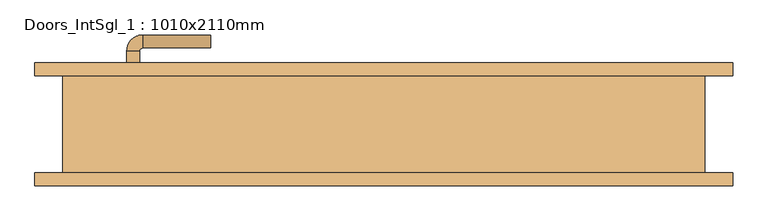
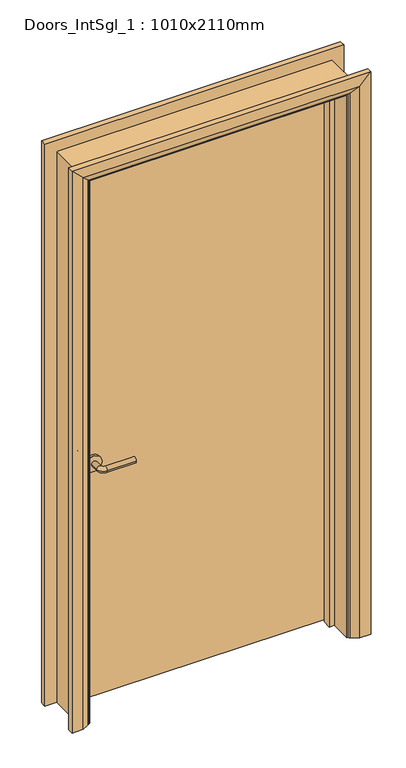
"""IFC4 building model written with IfcOpenShell, lengths in millimetres: door geometry, Doors_IntSgl_1 : 1010x2110mm."""

from ifc_helpers import new_model, si_unit, point, frame, frame_2d, origin, place, context, project, spatial, polyline, circle_curve, ellipse_curve, trimmed, segment, composite_curve, outline, extrude, faceted_brep, source, transform, mapped, element, save
from ifc_brep_helpers import plane_surface, cylinder_surface, revolved_surface, advanced_brep


def doors_intsgl_1_1010x2110mm_12a6edaf(model_context):
    return source(origin(), model_context, "Body", "SolidModel", [
        advanced_brep(
        [(-398.0, 29.0, 900.0), (-378.0, 29.0, 900.0), (-378.0, -1.0, 900.0), (-398.0, -1.0, 900.0), (-373.0, -6.0, 900.0), (-373.0, -26.0, 900.0), (-268.0, -26.0, 900.0), (-268.0, -6.0, 900.0)],
        [
            (0, 1, circle_curve(frame((-388.0, 29.0, 900.0), z_axis=(0.0, 1.0, 0.0), x_axis=(1.0, 0.0, 0.0)), 10.0)),
            (1, 0, circle_curve(frame((-388.0, 29.0, 900.0), z_axis=(0.0, 1.0, 0.0), x_axis=(1.0, 0.0, 0.0)), 10.0)),
            (1, 2),
            (2, 3, circle_curve(frame((-388.0, -1.0, 900.0), z_axis=(0.0, 1.0, 0.0), x_axis=(1.0, 0.0, 0.0)), 10.0)),
            (3, 0),
            (3, 2, circle_curve(frame((-388.0, -1.0, 900.0), z_axis=(0.0, 1.0, 0.0), x_axis=(1.0, 0.0, 0.0)), 10.0)),
            (4, 5, circle_curve(frame((-373.0, -16.0, 900.0), z_axis=(-1.0, 0.0, 0.0), x_axis=(0.0, 1.0, 0.0)), 10.0)),
            (5, 3, circle_curve(frame((-373.0, -1.0, 900.0), z_axis=(0.0, 0.0, -1.0), x_axis=(-1.0, 0.0, 0.0)), 25.0)),
            (2, 4, circle_curve(frame((-373.0, -1.0, 900.0), z_axis=(0.0, 0.0, 1.0), x_axis=(-1.0, 0.0, 0.0)), 5.0)),
            (5, 4, circle_curve(frame((-373.0, -16.0, 900.0), z_axis=(-1.0, 0.0, 0.0), x_axis=(0.0, 1.0, 0.0)), 10.0)),
            (6, 7, circle_curve(frame((-268.0, -16.0, 900.0), z_axis=(1.0, 0.0, 0.0), x_axis=(0.0, 1.0, 0.0)), 10.0)),
            (7, 6, circle_curve(frame((-268.0, -16.0, 900.0), z_axis=(1.0, 0.0, 0.0), x_axis=(0.0, 1.0, 0.0)), 10.0)),
            (4, 7),
            (6, 5),
        ],
        [
            plane_surface(frame((-388.0, 29.0, 900.0), z_axis=(0.0, 1.0, 0.0), x_axis=(0.0, 0.0, 1.0))),
            cylinder_surface(frame((-388.0, 29.0, 900.0), z_axis=(0.0, 1.0, 0.0), x_axis=(1.0, 0.0, 0.0)), 10.0),
            revolved_surface(trimmed(ellipse_curve(frame((-388.0, -1.0, 900.0), z_axis=(0.0, -1.0, 0.0), x_axis=(1.0, 0.0, 0.0)), 10.0, 10.0), [point((-398.0, -1.0, 900.0))], [point((-378.0, -1.0, 900.0))], True, "CARTESIAN"), (-373.0, -1.0, 900.0), (0.0, 0.0, -1.0)),
            revolved_surface(trimmed(ellipse_curve(frame((-388.0, -1.0, 900.0), z_axis=(0.0, -1.0, 0.0), x_axis=(1.0, 0.0, 0.0)), 10.0, 10.0), [point((-378.0, -1.0, 900.0))], [point((-398.0, -1.0, 900.0))], True, "CARTESIAN"), (-373.0, -1.0, 900.0), (0.0, 0.0, -1.0)),
            plane_surface(frame((-268.0, -16.0, 900.0), z_axis=(1.0, 0.0, 0.0), x_axis=(0.0, 0.0, 1.0))),
            cylinder_surface(frame((-373.0, -16.0, 900.0), z_axis=(-1.0, 0.0, 0.0), x_axis=(0.0, 1.0, 0.0)), 10.0),
        ],
        [
            (0, [[1, 2]]),
            (1, [[3, 4, 5, -2]]),
            (1, [[-5, 6, -3, -1]]),
            (2, [[7, 8, -4, 9]]),
            (3, [[10, -9, -6, -8]]),
            (4, [[11, 12]]),
            (5, [[13, -11, 14, -7]]),
            (5, [[-14, -12, -13, -10]]),
        ],
    ),
        extrude(outline(composite_curve([segment(trimmed(circle_curve(frame_2d((900.0, -390.5)), 30.0), [point((900.0, -420.5))], [point((900.0, -360.5))], False, "CARTESIAN"), True, "CONTINUOUS"), segment(trimmed(circle_curve(frame_2d((900.0, -390.5)), 30.0), [point((900.0, -360.5))], [point((900.0, -420.5))], False, "CARTESIAN"), True, "CONTINUOUS")], self_intersect=False)), frame((0.0, 29.0, 0.0), z_axis=(0.0, 1.0, 0.0), x_axis=(0.0, 0.0, 1.0)), (0.0, 0.0, 1.0), 8.0),
        advanced_brep(
        [(-398.0, 83.0, 900.0), (-378.0, 83.0, 900.0), (-398.0, 113.0, 900.0), (-378.0, 113.0, 900.0), (-373.0, 118.0, 900.0), (-373.0, 138.0, 900.0), (-268.0, 138.0, 900.0), (-268.0, 118.0, 900.0)],
        [
            (0, 1, circle_curve(frame((-388.0, 83.0, 900.0), z_axis=(0.0, -1.0, 0.0), x_axis=(1.0, 0.0, 0.0)), 10.0)),
            (1, 0, circle_curve(frame((-388.0, 83.0, 900.0), z_axis=(0.0, -1.0, 0.0), x_axis=(1.0, 0.0, 0.0)), 10.0)),
            (0, 2),
            (2, 3, circle_curve(frame((-388.0, 113.0, 900.0), z_axis=(0.0, -1.0, 0.0), x_axis=(1.0, 0.0, 0.0)), 10.0)),
            (3, 1),
            (3, 2, circle_curve(frame((-388.0, 113.0, 900.0), z_axis=(0.0, -1.0, 0.0), x_axis=(1.0, 0.0, 0.0)), 10.0)),
            (4, 3, circle_curve(frame((-373.0, 113.0, 900.0), z_axis=(0.0, 0.0, 1.0), x_axis=(-1.0, 0.0, 0.0)), 5.0)),
            (2, 5, circle_curve(frame((-373.0, 113.0, 900.0), z_axis=(0.0, 0.0, -1.0), x_axis=(-1.0, 0.0, 0.0)), 25.0)),
            (5, 4, circle_curve(frame((-373.0, 128.0, 900.0), z_axis=(-1.0, 0.0, 0.0), x_axis=(0.0, -1.0, 0.0)), 10.0)),
            (4, 5, circle_curve(frame((-373.0, 128.0, 900.0), z_axis=(-1.0, 0.0, 0.0), x_axis=(0.0, -1.0, 0.0)), 10.0)),
            (6, 7, circle_curve(frame((-268.0, 128.0, 900.0), z_axis=(1.0, 0.0, 0.0), x_axis=(0.0, -1.0, 0.0)), 10.0)),
            (7, 6, circle_curve(frame((-268.0, 128.0, 900.0), z_axis=(1.0, 0.0, 0.0), x_axis=(0.0, -1.0, 0.0)), 10.0)),
            (5, 6),
            (7, 4),
        ],
        [
            plane_surface(frame((-388.0, 83.0, 900.0), z_axis=(0.0, -1.0, 0.0), x_axis=(0.0, 0.0, 1.0))),
            cylinder_surface(frame((-388.0, 83.0, 900.0), z_axis=(0.0, -1.0, 0.0), x_axis=(1.0, 0.0, 0.0)), 10.0),
            revolved_surface(trimmed(ellipse_curve(frame((-388.0, 113.0, 900.0), z_axis=(0.0, -1.0, 0.0), x_axis=(1.0, 0.0, 0.0)), 10.0, 10.0), [point((-398.0, 113.0, 900.0))], [point((-378.0, 113.0, 900.0))], True, "CARTESIAN"), (-373.0, 113.0, 900.0), (0.0, 0.0, -1.0)),
            revolved_surface(trimmed(ellipse_curve(frame((-388.0, 113.0, 900.0), z_axis=(0.0, -1.0, 0.0), x_axis=(1.0, 0.0, 0.0)), 10.0, 10.0), [point((-378.0, 113.0, 900.0))], [point((-398.0, 113.0, 900.0))], True, "CARTESIAN"), (-373.0, 113.0, 900.0), (0.0, 0.0, -1.0)),
            plane_surface(frame((-268.0, 128.0, 900.0), z_axis=(1.0, 0.0, 0.0), x_axis=(0.0, 0.0, 1.0))),
            cylinder_surface(frame((-373.0, 128.0, 900.0), z_axis=(-1.0, 0.0, 0.0), x_axis=(0.0, -1.0, 0.0)), 10.0),
        ],
        [
            (0, [[1, 2]]),
            (1, [[-1, 3, 4, 5]]),
            (1, [[-2, -5, 6, -3]]),
            (2, [[7, -4, 8, 9]]),
            (3, [[-8, -6, -7, 10]]),
            (4, [[11, 12]]),
            (5, [[-9, 13, -12, 14]]),
            (5, [[-10, -14, -11, -13]]),
        ],
    ),
        extrude(outline(composite_curve([segment(trimmed(circle_curve(frame_2d((900.0, -390.5)), 30.0), [point((900.0, -420.5))], [point((900.0, -360.5))], False, "CARTESIAN"), True, "CONTINUOUS"), segment(trimmed(circle_curve(frame_2d((900.0, -390.5)), 30.0), [point((900.0, -360.5))], [point((900.0, -420.5))], False, "CARTESIAN"), True, "CONTINUOUS")], self_intersect=False)), frame((0.0, 75.0, 0.0), z_axis=(0.0, 1.0, 0.0), x_axis=(0.0, 0.0, 1.0)), (0.0, 0.0, 1.0), 8.0),
        extrude(outline(polyline([(463.0, 37.0), (-463.0, 37.0), (-463.0, 75.0), (463.0, 75.0), (463.0, 37.0)])), frame((0.0, 0.0, 8.0), z_axis=(0.0, 0.0, 1.0), x_axis=(1.0, 0.0, 0.0)), (0.0, 0.0, 1.0), 2060.0),
        advanced_brep(
        [(540.0, 95.0, 0.0), (540.0, 75.0, 0.0), (470.0, 75.0, 0.0), (474.0, 81.0, 0.0), (500.0, 95.0, 0.0), (540.0, 95.0, 2145.0), (540.0, 75.0, 2145.0), (-540.0, 75.0, 2145.0), (-540.0, 75.0, 0.0), (-470.0, 75.0, 0.0), (-470.0, 75.0, 2075.0), (470.0, 75.0, 2075.0), (474.0, 81.0, 2079.0), (500.0, 95.0, 2105.0), (-500.0, 95.0, 2105.0), (-500.0, 95.0, 0.0), (-540.0, 95.0, 0.0), (-540.0, 95.0, 2145.0), (-474.0, 81.0, 0.0), (-474.0, 81.0, 2079.0)],
        [
            (0, 1),
            (1, 2),
            (2, 3, circle_curve(frame((478.0, 74.0, 0.0), z_axis=(0.0, 0.0, -1.0), x_axis=(1.0, 0.0, 0.0)), 8.0622577)),
            (3, 4),
            (4, 0),
            (0, 5),
            (5, 6),
            (6, 1),
            (6, 7),
            (7, 8),
            (8, 9),
            (9, 10),
            (10, 11),
            (11, 2),
            (11, 12, ellipse_curve(frame((478.0, 74.0, 2083.0), z_axis=(0.7071067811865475, 0.0, -0.7071067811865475), x_axis=(-0.7071067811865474, 0.0, -0.7071067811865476)), 11.4017543, 8.0622577)),
            (12, 3),
            (12, 13),
            (13, 4),
            (13, 14),
            (14, 15),
            (15, 16),
            (16, 17),
            (17, 5),
            (7, 17),
            (16, 8),
            (15, 18),
            (18, 9, circle_curve(frame((-478.0, 74.0, 0.0), z_axis=(0.0, 0.0, -1.0), x_axis=(-1.0, 0.0, 0.0)), 8.0622577)),
            (19, 10, ellipse_curve(frame((-478.0, 74.0, 2083.0), z_axis=(-0.7071067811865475, 0.0, -0.7071067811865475), x_axis=(-0.7071067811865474, 0.0, 0.7071067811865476)), 11.4017543, 8.0622577)),
            (18, 19),
            (14, 19),
            (19, 12),
        ],
        [
            plane_surface(frame((470.0, 75.0, 0.0), z_axis=(0.0, 0.0, -1.0), x_axis=(0.0, -1.0, 0.0))),
            plane_surface(frame((540.0, 95.0, 0.0), z_axis=(1.0, 0.0, 0.0), x_axis=(0.0, 0.0, 1.0))),
            plane_surface(frame((540.0, 75.0, 0.0), z_axis=(0.0, -1.0, 0.0), x_axis=(0.0, 0.0, 1.0))),
            cylinder_surface(frame((478.0, 74.0, 0.0), z_axis=(0.0, 0.0, -1.0), x_axis=(1.0, 0.0, 0.0)), 8.0622577),
            plane_surface(frame((474.0, 81.0, 0.0), z_axis=(-0.4740998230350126, 0.880471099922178, 0.0), x_axis=(0.0, 0.0, 1.0))),
            plane_surface(frame((500.0, 95.0, 0.0), z_axis=(0.0, 1.0, 0.0), x_axis=(0.0, 0.0, 1.0))),
            plane_surface(frame((-540.0, 95.0, 2145.0), z_axis=(-1.0, 0.0, 0.0), x_axis=(0.0, 0.0, -1.0))),
            plane_surface(frame((-470.0, 75.0, 0.0), z_axis=(0.0, 0.0, -1.0), x_axis=(0.0, -1.0, 0.0))),
            cylinder_surface(frame((-478.0, 74.0, 2075.0), z_axis=(0.0, 0.0, 1.0), x_axis=(-1.0, 0.0, 0.0)), 8.0622577),
            plane_surface(frame((-474.0, 81.0, 2079.0), z_axis=(0.47409982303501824, 0.8804710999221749, 0.0), x_axis=(0.0, 0.0, -1.0))),
            plane_surface(frame((540.0, 95.0, 2145.0), z_axis=(0.0, 0.0, 1.0), x_axis=(-1.0, 0.0, 0.0))),
            cylinder_surface(frame((470.0, 74.0, 2083.0), z_axis=(1.0, 0.0, 0.0), x_axis=(0.0, 0.0, 1.0)), 8.0622577),
            plane_surface(frame((474.0, 81.0, 2079.0), z_axis=(0.0, 0.8804710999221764, -0.4740998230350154), x_axis=(-1.0, 0.0, 0.0))),
        ],
        [
            (0, [[1, 2, 3, 4, 5]]),
            (1, [[-1, 6, 7, 8]]),
            (2, [[-2, -8, 9, 10, 11, 12, 13, 14]]),
            (3, [[-3, -14, 15, 16]]),
            (4, [[-4, -16, 17, 18]]),
            (5, [[-5, -18, 19, 20, 21, 22, 23, -6]]),
            (6, [[24, -22, 25, -10]]),
            (7, [[-21, 26, 27, -11, -25]]),
            (8, [[28, -12, -27, 29]]),
            (9, [[30, -29, -26, -20]]),
            (10, [[-7, -23, -24, -9]]),
            (11, [[-15, -13, -28, 31]]),
            (12, [[-17, -31, -30, -19]]),
        ],
    ),
        extrude(outline(polyline([(0.0, -465.0), (0.0, -446.0), (2051.0, -446.0), (2051.0, 446.0), (0.0, 446.0), (0.0, 465.0), (2070.0, 465.0), (2070.0, -465.0), (0.0, -465.0)])), frame((0.0, 3.0, 0.0), z_axis=(0.0, 1.0, 0.0), x_axis=(0.0, 0.0, 1.0)), (0.0, 0.0, 1.0), 32.0),
        advanced_brep(
        [(-540.0, -95.0, 0.0), (-540.0, -75.0, 0.0), (-470.0, -75.0, 0.0), (-474.0, -81.0, 0.0), (-500.0, -95.0, 0.0), (-540.0, -95.0, 2145.0), (-540.0, -75.0, 2145.0), (-470.0, -75.0, 2075.0), (-474.0, -81.0, 2079.0), (-500.0, -95.0, 2105.0), (540.0, -95.0, 0.0), (500.0, -95.0, 0.0), (474.0, -81.0, 0.0), (470.0, -75.0, 0.0), (540.0, -75.0, 0.0), (540.0, -95.0, 2145.0), (500.0, -95.0, 2105.0), (474.0, -81.0, 2079.0), (470.0, -75.0, 2075.0), (540.0, -75.0, 2145.0)],
        [
            (0, 1),
            (1, 2),
            (2, 3, circle_curve(frame((-478.0, -74.0, 0.0), z_axis=(0.0, 0.0, -1.0), x_axis=(-1.0, 0.0, 0.0)), 8.0622577)),
            (3, 4),
            (4, 0),
            (0, 5),
            (5, 6),
            (6, 1),
            (6, 7),
            (7, 2),
            (7, 8, ellipse_curve(frame((-478.0, -74.0, 2083.0), z_axis=(-0.7071067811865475, 0.0, -0.7071067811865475), x_axis=(0.7071067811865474, 0.0, -0.7071067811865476)), 11.4017543, 8.0622577)),
            (8, 3),
            (8, 9),
            (9, 4),
            (9, 5),
            (10, 11),
            (11, 12),
            (12, 13, circle_curve(frame((478.0, -74.0, 0.0), z_axis=(0.0, 0.0, -1.0), x_axis=(1.0, 0.0, 0.0)), 8.0622577)),
            (13, 14),
            (14, 10),
            (15, 16),
            (16, 11),
            (10, 15),
            (16, 17),
            (17, 12),
            (17, 18, ellipse_curve(frame((478.0, -74.0, 2083.0), z_axis=(0.7071067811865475, 0.0, -0.7071067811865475), x_axis=(0.7071067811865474, 0.0, 0.7071067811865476)), 11.4017543, 8.0622577)),
            (18, 13),
            (18, 19),
            (19, 14),
            (19, 15),
            (5, 15),
            (19, 6),
            (18, 7),
            (17, 8),
            (16, 9),
        ],
        [
            plane_surface(frame((-470.0, -147.8010989, 0.0), z_axis=(0.0, 0.0, -1.0), x_axis=(1.0, 0.0, 0.0))),
            plane_surface(frame((-540.0, -95.0, 0.0), z_axis=(-1.0, 0.0, 0.0), x_axis=(0.0, 0.0, 1.0))),
            plane_surface(frame((-540.0, -75.0, 0.0), z_axis=(0.0, 1.0, 0.0), x_axis=(0.0, 0.0, 1.0))),
            cylinder_surface(frame((-478.0, -74.0, 0.0), z_axis=(0.0, 0.0, -1.0), x_axis=(-1.0, 0.0, 0.0)), 8.0622577),
            plane_surface(frame((-474.0, -81.0, 0.0), z_axis=(0.4740998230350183, -0.8804710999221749, 0.0), x_axis=(0.0, 0.0, 1.0))),
            plane_surface(frame((-500.0, -95.0, 0.0), z_axis=(0.0, -1.0, 0.0), x_axis=(0.0, 0.0, 1.0))),
            plane_surface(frame((470.0, -147.8010989, 0.0), z_axis=(0.0, 0.0, -1.0), x_axis=(-1.0, 0.0, 0.0))),
            plane_surface(frame((500.0, -95.0, 2105.0), z_axis=(0.0, -1.0, 0.0), x_axis=(0.0, 0.0, -1.0))),
            plane_surface(frame((474.0, -81.0, 2079.0), z_axis=(-0.4740998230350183, -0.8804710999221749, 0.0), x_axis=(0.0, 0.0, -1.0))),
            cylinder_surface(frame((478.0, -74.0, 2075.0), z_axis=(0.0, 0.0, 1.0), x_axis=(1.0, 0.0, 0.0)), 8.0622577),
            plane_surface(frame((540.0, -75.0, 2145.0), z_axis=(0.0, 1.0, 0.0), x_axis=(0.0, 0.0, -1.0))),
            plane_surface(frame((540.0, -95.0, 2145.0), z_axis=(1.0, 0.0, 0.0), x_axis=(0.0, 0.0, -1.0))),
            plane_surface(frame((-540.0, -95.0, 2145.0), z_axis=(0.0, 0.0, 1.0), x_axis=(1.0, 0.0, 0.0))),
            plane_surface(frame((-540.0, -75.0, 2145.0), z_axis=(0.0, 1.0, 0.0), x_axis=(1.0, 0.0, 0.0))),
            cylinder_surface(frame((-470.0, -74.0, 2083.0), z_axis=(-1.0, 0.0, 0.0), x_axis=(0.0, 0.0, 1.0)), 8.0622577),
            plane_surface(frame((-474.0, -81.0, 2079.0), z_axis=(0.0, -0.8804710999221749, -0.4740998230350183), x_axis=(1.0, 0.0, 0.0))),
            plane_surface(frame((-500.0, -95.0, 2105.0), z_axis=(0.0, -1.0, 0.0), x_axis=(1.0, 0.0, 0.0))),
        ],
        [
            (0, [[1, 2, 3, 4, 5]]),
            (1, [[-1, 6, 7, 8]]),
            (2, [[-2, -8, 9, 10]]),
            (3, [[-3, -10, 11, 12]]),
            (4, [[-4, -12, 13, 14]]),
            (5, [[-5, -14, 15, -6]]),
            (6, [[16, 17, 18, 19, 20]]),
            (7, [[21, 22, -16, 23]]),
            (8, [[24, 25, -17, -22]]),
            (9, [[26, 27, -18, -25]]),
            (10, [[28, 29, -19, -27]]),
            (11, [[30, -23, -20, -29]]),
            (12, [[-7, 31, -30, 32]]),
            (13, [[-9, -32, -28, 33]]),
            (14, [[-11, -33, -26, 34]]),
            (15, [[-13, -34, -24, 35]]),
            (16, [[-15, -35, -21, -31]]),
        ],
    ),
        faceted_brep([(-465.0, 75.0, 0.0), (-465.0, -75.0, 0.0), (-497.0, -75.0, 0.0), (-497.0, 75.0, 0.0), (-465.0, 75.0, 2070.0), (-465.0, -75.0, 2070.0), (-497.0, -75.0, 2102.0), (-497.0, 75.0, 2102.0), (465.0, 75.0, 0.0), (497.0, 75.0, 0.0), (497.0, -75.0, 0.0), (465.0, -75.0, 0.0), (465.0, 75.0, 2070.0), (497.0, 75.0, 2102.0), (497.0, -75.0, 2102.0), (465.0, -75.0, 2070.0)], [[[0, 1, 2, 3]], [[1, 0, 4, 5]], [[2, 1, 5, 6]], [[3, 2, 6, 7]], [[0, 3, 7, 4]], [[8, 9, 10, 11]], [[12, 13, 9, 8]], [[13, 14, 10, 9]], [[14, 15, 11, 10]], [[15, 12, 8, 11]], [[5, 4, 12, 15]], [[6, 5, 15, 14]], [[7, 6, 14, 13]], [[4, 7, 13, 12]]]),
    ])


if __name__ == "__main__":
    model = new_model("IFC4")
    model_context = context("Model", 3, world=origin())
    ifc_project = project(units=[si_unit("LENGTHUNIT", "METRE", prefix="MILLI")], contexts=[model_context])
    site = spatial("IfcSite", under=ifc_project)
    building = spatial("IfcBuilding", under=site)
    placement = place(None, origin())
    doors_intsgl_1_1010x2110mm_shape = doors_intsgl_1_1010x2110mm_12a6edaf(model_context)
    element("IfcDoor", 1, ObjectType="Doors_IntSgl_1 : 1010x2110mm", at=placement, inside=building, context=model_context, shape_type="MappedRepresentation", body=[
        mapped(doors_intsgl_1_1010x2110mm_shape, transform((0.0, 0.0, 0.0), x_axis=(1.0, 0.0, 0.0), y_axis=(0.0, 1.0, 0.0), z_axis=(0.0, 0.0, 1.0))),
    ])
    save(model, "model.ifc")
